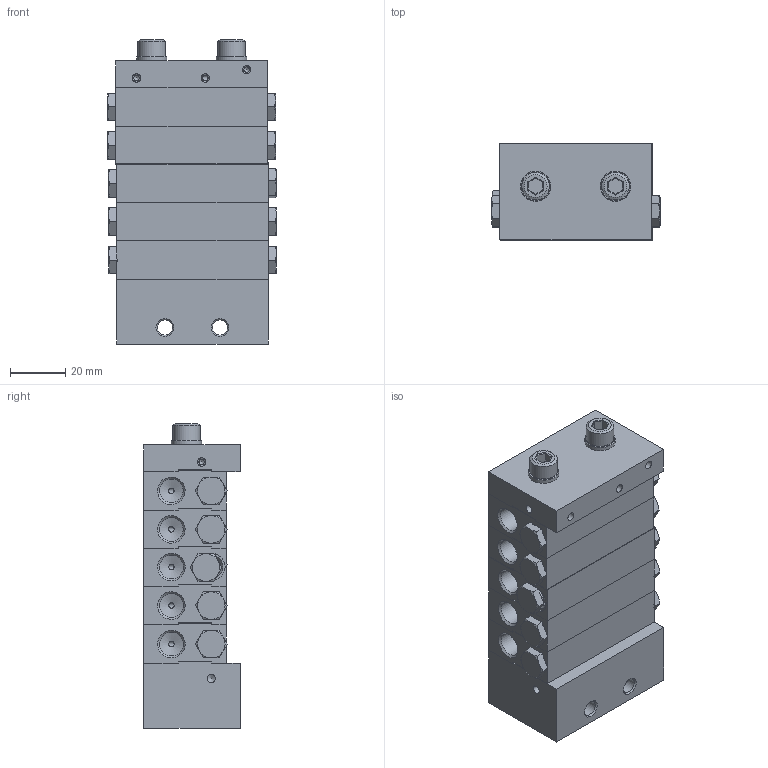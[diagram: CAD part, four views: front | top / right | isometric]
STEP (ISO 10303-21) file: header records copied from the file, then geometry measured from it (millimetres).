
FILE_DESCRIPTION (( 'STEP AP214' ), '1' );
FILE_NAME ('STW_XV_10_Auslässe.STEP', '2025-09-16T11:01:07', ( '' ), ( '' ), 'SwSTEP 2.0', 'SolidWorks 2022', '' );
FILE_SCHEMA (( 'AUTOMOTIVE_DESIGN' ));
Length unit declared in the file: millimetre
Products named in the file (10): STW_XV_Kolbenanschlag; STW_XV_END; U_Scheibe_6; STW_XV_ENGANG; M6X65_DIN_912; STW_XV_MITTEL_1; O_RING_3X1; STW_XV_Verbindungsstopen; Verschlussstopfen_1_8; STW_XV_10_Auslässe
Assembly tree (40 placements, depth 2):
  STW_XV_10_Auslässe
    STW_XV_ENGANG
    O_RING_3X1  x4
    STW_XV_MITTEL_1  x5
    STW_XV_END
    Verschlussstopfen_1_8  x10
    STW_XV_Kolbenanschlag  x10
    STW_XV_Verbindungsstopen  x5
    M6X65_DIN_912  x2
    U_Scheibe_6  x2
Bounding box: 61.32 x 35.03 x 110.48 mm (x, y, z)
Volume: 164609.4 mm3; surface area: 78076.1 mm2
Topology: 40 solids, 40 shells, 1570 faces, 4142 edges, 2656 vertices
Faces by surface type: plane 737, cylinder 418, cone 305, bspline 110
Full cylindrical faces by diameter (mm): 2 x137, 3 x12, 5 x56, 5.5 x2, 5.9 x2, 6 x2, 6.2 x12, 6.4 x2, 6.5 x10, 7 x10, 8 x10, 8.4 x5, 8.6 x25, 9 x11, 9.7 x10, 9.73 x5, 10 x12, 11 x2, 15 x1
Entity records: 29872 total; most frequent: CARTESIAN_POINT 17191, ORIENTED_EDGE 2526, DIRECTION 2077, EDGE_CURVE 1263, VERTEX_POINT 896, EDGE_LOOP 821, AXIS2_PLACEMENT_3D 703, VECTOR 671
